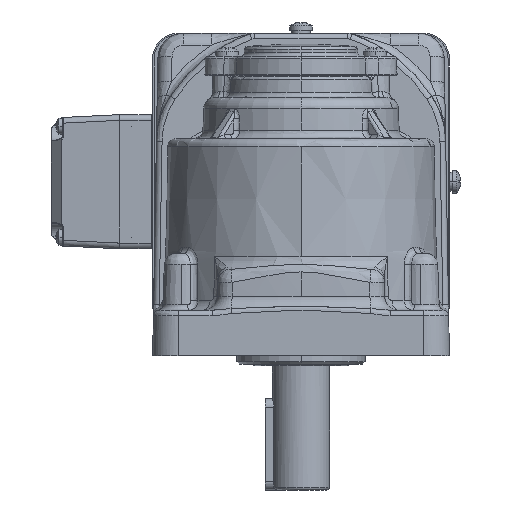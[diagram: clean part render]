
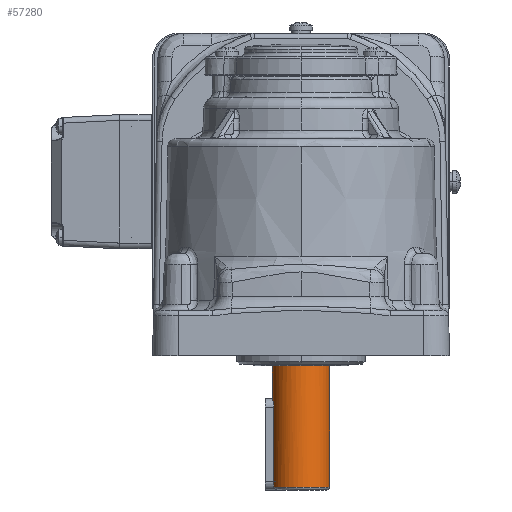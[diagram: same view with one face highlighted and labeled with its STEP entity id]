
A CAD part, left-side view. The second image highlights one B-rep face of the part: STEP entity #57280.
In plain terms, the highlighted cylindrical face has radius 10 mm (diameter 20 mm), a partial arc.
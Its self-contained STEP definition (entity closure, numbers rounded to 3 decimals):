
#1213 = CARTESIAN_POINT ( 'NONE',  ( -32.918, 29.998, 88.008 ) ) ;
#1251 = AXIS2_PLACEMENT_3D ( 'NONE', #11225, #4766, #60368 ) ;
#1296 = EDGE_CURVE ( 'NONE', #71644, #83960, #98962, .T. ) ;
#1719 = VERTEX_POINT ( 'NONE', #33134 ) ;
#3814 = CARTESIAN_POINT ( 'NONE',  ( -35.444, 29.561, 85.698 ) ) ;
#4766 = DIRECTION ( 'NONE',  ( 0., 0., 1. ) ) ;
#5990 = CARTESIAN_POINT ( 'NONE',  ( -32.523, 19.998, 188.508 ) ) ;
#9749 = CARTESIAN_POINT ( 'NONE',  ( -34.96, 29.696, 86.761 ) ) ;
#11225 = CARTESIAN_POINT ( 'NONE',  ( -32.523, 19.998, 99.508 ) ) ;
#12777 = EDGE_CURVE ( 'NONE', #74135, #72497, #64341, .T. ) ;
#17217 = DIRECTION ( 'NONE',  ( 0., 0., -1. ) ) ;
#17626 = VECTOR ( 'NONE', #79028, 1000. ) ;
#20309 = ORIENTED_EDGE ( 'NONE', *, *, #51013, .T. ) ;
#22514 = FACE_OUTER_BOUND ( 'NONE', #53319, .T. ) ;
#25766 = CARTESIAN_POINT ( 'NONE',  ( -34.368, 29.83, 87.406 ) ) ;
#29420 = CARTESIAN_POINT ( 'NONE',  ( -35.503, 29.543, 85.405 ) ) ;
#32672 = ORIENTED_EDGE ( 'NONE', *, *, #12777, .F. ) ;
#33134 = CARTESIAN_POINT ( 'NONE',  ( -32.523, 29.998, 88.008 ) ) ;
#33784 = CARTESIAN_POINT ( 'NONE',  ( -33.312, 29.973, 87.929 ) ) ;
#36413 = CARTESIAN_POINT ( 'NONE',  ( -35.125, 29.654, 86.515 ) ) ;
#37481 = ORIENTED_EDGE ( 'NONE', *, *, #99044, .T. ) ;
#44485 = B_SPLINE_CURVE_WITH_KNOTS ( 'NONE', 3,
 ( #74377, #1213, #33784, #66349, #25766, #58339, #90941, #50347, #9749, #36413, #45475, #68967, #53979, #102622, #3814, #29420, #44951, #101586 ),
 .UNSPECIFIED., .F., .F.,
 ( 4, 2, 2, 2, 2, 2, 2, 2, 4 ),
 ( 0., 0.25, 0.5, 0.563, 0.625, 0.75, 0.813, 0.875, 1. ),
 .UNSPECIFIED. ) ;
#44951 = CARTESIAN_POINT ( 'NONE',  ( -35.523, 29.537, 85.208 ) ) ;
#45475 = CARTESIAN_POINT ( 'NONE',  ( -35.217, 29.628, 86.343 ) ) ;
#50140 = CARTESIAN_POINT ( 'NONE',  ( -35.523, 29.537, 85.008 ) ) ;
#50347 = CARTESIAN_POINT ( 'NONE',  ( -34.902, 29.711, 86.838 ) ) ;
#51013 = EDGE_CURVE ( 'NONE', #57877, #72497, #90232, .T. ) ;
#51399 = CIRCLE ( 'NONE', #70134, 10. ) ;
#53319 = EDGE_LOOP ( 'NONE', ( #58467, #85311, #37481, #91341, #62190, #20309, #32672 ) ) ;
#53979 = CARTESIAN_POINT ( 'NONE',  ( -35.364, 29.586, 85.978 ) ) ;
#55363 = LINE ( 'NONE', #102434, #104399 ) ;
#57280 = ADVANCED_FACE ( 'NONE', ( #22514 ), #104814, .T. ) ;
#57877 = VERTEX_POINT ( 'NONE', #76072 ) ;
#58181 = CARTESIAN_POINT ( 'NONE',  ( -35.523, 29.537, 59.008 ) ) ;
#58339 = CARTESIAN_POINT ( 'NONE',  ( -34.714, 29.755, 87.06 ) ) ;
#58467 = ORIENTED_EDGE ( 'NONE', *, *, #78914, .F. ) ;
#59225 = DIRECTION ( 'NONE',  ( 0., 0., 1. ) ) ;
#60368 = DIRECTION ( 'NONE',  ( 0., -1., 0. ) ) ;
#62190 = ORIENTED_EDGE ( 'NONE', *, *, #98211, .T. ) ;
#63554 = CARTESIAN_POINT ( 'NONE',  ( -35.523, 29.537, 57.008 ) ) ;
#64341 = CIRCLE ( 'NONE', #1251, 10. ) ;
#66349 = CARTESIAN_POINT ( 'NONE',  ( -34.037, 29.889, 87.628 ) ) ;
#66358 = CARTESIAN_POINT ( 'NONE',  ( -35.523, 29.537, 188.508 ) ) ;
#68967 = CARTESIAN_POINT ( 'NONE',  ( -35.33, 29.596, 86.07 ) ) ;
#70134 = AXIS2_PLACEMENT_3D ( 'NONE', #73215, #96756, #72691 ) ;
#70782 = CARTESIAN_POINT ( 'NONE',  ( -32.523, 9.998, 99.508 ) ) ;
#70866 = DIRECTION ( 'NONE',  ( 0., 0., -1. ) ) ;
#71644 = VERTEX_POINT ( 'NONE', #58181 ) ;
#72497 = VERTEX_POINT ( 'NONE', #70782 ) ;
#72691 = DIRECTION ( 'NONE',  ( 0., -1., 0. ) ) ;
#73215 = CARTESIAN_POINT ( 'NONE',  ( -32.523, 19.998, 57.008 ) ) ;
#74135 = VERTEX_POINT ( 'NONE', #93576 ) ;
#74377 = CARTESIAN_POINT ( 'NONE',  ( -32.523, 29.998, 88.008 ) ) ;
#76072 = CARTESIAN_POINT ( 'NONE',  ( -32.523, 9.998, 57.008 ) ) ;
#78491 = CARTESIAN_POINT ( 'NONE',  ( -32.523, 29.998, 188.508 ) ) ;
#78914 = EDGE_CURVE ( 'NONE', #1719, #74135, #85457, .T. ) ;
#79028 = DIRECTION ( 'NONE',  ( 0., 0., 1. ) ) ;
#83960 = VERTEX_POINT ( 'NONE', #63554 ) ;
#85062 = EDGE_CURVE ( 'NONE', #1719, #101644, #44485, .T. ) ;
#85311 = ORIENTED_EDGE ( 'NONE', *, *, #85062, .T. ) ;
#85457 = LINE ( 'NONE', #78491, #17626 ) ;
#87157 = DIRECTION ( 'NONE',  ( 0., -1., 0. ) ) ;
#90232 = LINE ( 'NONE', #98768, #103991 ) ;
#90941 = CARTESIAN_POINT ( 'NONE',  ( -34.779, 29.74, 86.988 ) ) ;
#91341 = ORIENTED_EDGE ( 'NONE', *, *, #1296, .T. ) ;
#92777 = AXIS2_PLACEMENT_3D ( 'NONE', #5990, #95205, #87157 ) ;
#93576 = CARTESIAN_POINT ( 'NONE',  ( -32.523, 29.998, 99.508 ) ) ;
#95205 = DIRECTION ( 'NONE',  ( 0., 0., 1. ) ) ;
#96756 = DIRECTION ( 'NONE',  ( 0., 0., 1. ) ) ;
#98211 = EDGE_CURVE ( 'NONE', #83960, #57877, #51399, .T. ) ;
#98768 = CARTESIAN_POINT ( 'NONE',  ( -32.523, 9.998, 188.508 ) ) ;
#98962 = LINE ( 'NONE', #66358, #101554 ) ;
#99044 = EDGE_CURVE ( 'NONE', #101644, #71644, #55363, .T. ) ;
#101554 = VECTOR ( 'NONE', #17217, 1000. ) ;
#101586 = CARTESIAN_POINT ( 'NONE',  ( -35.523, 29.537, 85.008 ) ) ;
#101644 = VERTEX_POINT ( 'NONE', #50140 ) ;
#102434 = CARTESIAN_POINT ( 'NONE',  ( -35.523, 29.537, 188.508 ) ) ;
#102622 = CARTESIAN_POINT ( 'NONE',  ( -35.421, 29.569, 85.791 ) ) ;
#103991 = VECTOR ( 'NONE', #59225, 1000. ) ;
#104399 = VECTOR ( 'NONE', #70866, 1000. ) ;
#104814 = CYLINDRICAL_SURFACE ( 'NONE', #92777, 10. ) ;
